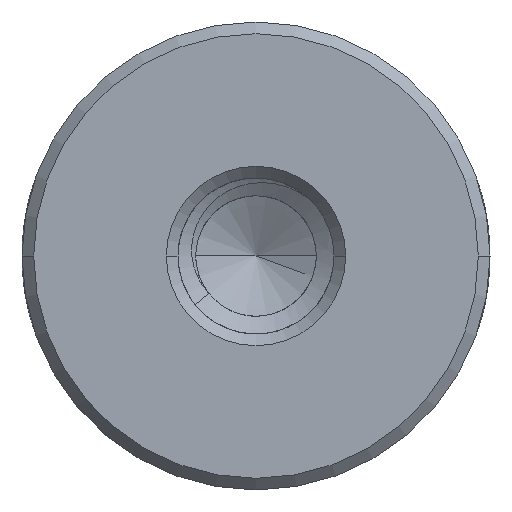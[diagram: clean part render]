
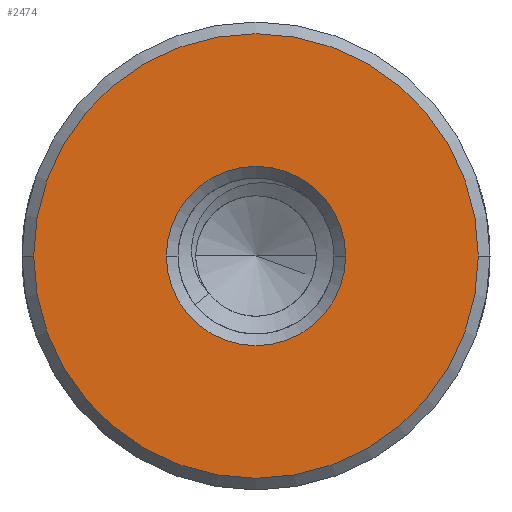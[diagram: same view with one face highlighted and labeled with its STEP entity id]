
A CAD part, front view. The second image highlights one B-rep face of the part: STEP entity #2474.
In plain terms, the highlighted planar face has unit normal (0, -1, 0).
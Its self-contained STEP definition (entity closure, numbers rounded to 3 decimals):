
#1=CARTESIAN_POINT('',(0.,-50.,0.));
#2=DIRECTION('',(0.,-1.,0.));
#3=DIRECTION('',(-1.,0.,0.));
#4=AXIS2_PLACEMENT_3D('',#1,#2,#3);
#6=CARTESIAN_POINT('',(0.,-50.,0.));
#7=DIRECTION('',(0.,-1.,0.));
#8=DIRECTION('',(1.,0.,0.));
#9=AXIS2_PLACEMENT_3D('',#6,#7,#8);
#11=CARTESIAN_POINT('',(0.,-50.,0.));
#12=DIRECTION('',(0.,1.,0.));
#13=DIRECTION('',(-1.,0.,0.));
#14=AXIS2_PLACEMENT_3D('',#11,#12,#13);
#16=CARTESIAN_POINT('',(0.,-50.,0.));
#17=DIRECTION('',(0.,1.,0.));
#18=DIRECTION('',(1.,0.,0.));
#19=AXIS2_PLACEMENT_3D('',#16,#17,#18);
#2301=CARTESIAN_POINT('',(-5.7,-50.,0.));
#2302=CARTESIAN_POINT('',(5.7,-50.,0.));
#2303=VERTEX_POINT('',#2301);
#2304=VERTEX_POINT('',#2302);
#2449=CARTESIAN_POINT('',(-2.3,-50.,0.));
#2450=CARTESIAN_POINT('',(2.3,-50.,0.));
#2451=VERTEX_POINT('',#2449);
#2452=VERTEX_POINT('',#2450);
#2457=CARTESIAN_POINT('',(0.,-50.,0.));
#2458=DIRECTION('',(0.,1.,0.));
#2459=DIRECTION('',(1.,0.,0.));
#2460=AXIS2_PLACEMENT_3D('',#2457,#2458,#2459);
#2461=PLANE('',#2460);
#2463=ORIENTED_EDGE('',*,*,#2462,.F.);
#2465=ORIENTED_EDGE('',*,*,#2464,.F.);
#2466=EDGE_LOOP('',(#2463,#2465));
#2467=FACE_OUTER_BOUND('',#2466,.F.);
#2469=ORIENTED_EDGE('',*,*,#2468,.F.);
#2471=ORIENTED_EDGE('',*,*,#2470,.F.);
#2472=EDGE_LOOP('',(#2469,#2471));
#2473=FACE_BOUND('',#2472,.F.);
#2474=ADVANCED_FACE('',(#2467,#2473),#2461,.F.);
#5=CIRCLE('',#4,5.7);
#10=CIRCLE('',#9,5.7);
#15=CIRCLE('',#14,2.3);
#20=CIRCLE('',#19,2.3);
#2462=EDGE_CURVE('',#2303,#2304,#5,.T.);
#2464=EDGE_CURVE('',#2304,#2303,#10,.T.);
#2468=EDGE_CURVE('',#2451,#2452,#15,.T.);
#2470=EDGE_CURVE('',#2452,#2451,#20,.T.);
